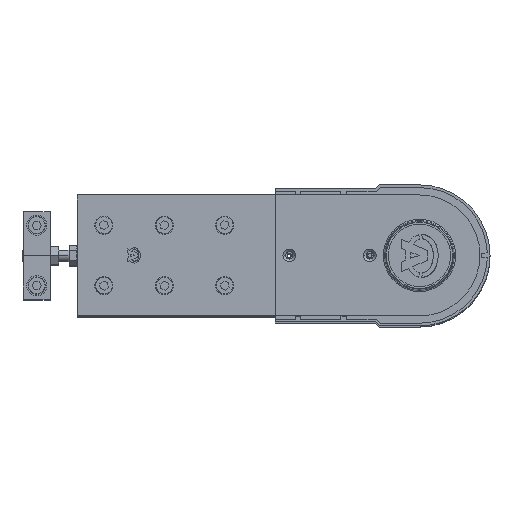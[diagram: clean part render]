
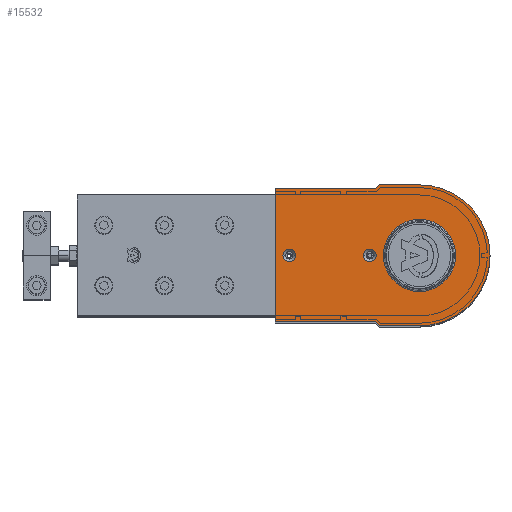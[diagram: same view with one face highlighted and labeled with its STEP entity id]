
A CAD part, top view. The second image highlights one B-rep face of the part: STEP entity #15532.
In plain terms, the highlighted planar face has unit normal (0, 0, 1).
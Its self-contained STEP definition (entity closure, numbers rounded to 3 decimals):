
#48 = EDGE_LOOP ( 'NONE', ( #8662, #6248 ) ) ;
#72 = AXIS2_PLACEMENT_3D ( 'NONE', #12421, #2291, #14115 ) ;
#579 = VERTEX_POINT ( 'NONE', #15591 ) ;
#939 = LINE ( 'NONE', #6861, #4389 ) ;
#1066 = EDGE_LOOP ( 'NONE', ( #3051, #12908 ) ) ;
#1194 = DIRECTION ( 'NONE',  ( 0., 0., 1. ) ) ;
#1334 = FACE_BOUND ( 'NONE', #1066, .T. ) ;
#1435 = VECTOR ( 'NONE', #14005, 1000. ) ;
#1446 = PLANE ( 'NONE',  #20766 ) ;
#1623 = CARTESIAN_POINT ( 'NONE',  ( 37., 0., 0. ) ) ;
#1640 = VERTEX_POINT ( 'NONE', #20698 ) ;
#2146 = CARTESIAN_POINT ( 'NONE',  ( 92.3, 0., 0. ) ) ;
#2174 = CARTESIAN_POINT ( 'NONE',  ( 30., -52.5, 0. ) ) ;
#2273 = CIRCLE ( 'NONE', #21403, 4.7 ) ;
#2291 = DIRECTION ( 'NONE',  ( 0., 0., 1. ) ) ;
#2294 = ORIENTED_EDGE ( 'NONE', *, *, #17404, .T. ) ;
#2687 = LINE ( 'NONE', #9449, #15652 ) ;
#2814 = EDGE_LOOP ( 'NONE', ( #21732, #17873, #2294, #10858, #17736, #21252, #18110, #20338 ) ) ;
#2821 = DIRECTION ( 'NONE',  ( -0.707, 0.707, 0. ) ) ;
#3051 = ORIENTED_EDGE ( 'NONE', *, *, #6811, .F. ) ;
#3138 = VECTOR ( 'NONE', #2821, 1000. ) ;
#3309 = DIRECTION ( 'NONE',  ( 1., 0., 0. ) ) ;
#3400 = CARTESIAN_POINT ( 'NONE',  ( 26.933, 0., 0. ) ) ;
#3638 = DIRECTION ( 'NONE',  ( 0., 0., -1. ) ) ;
#3679 = LINE ( 'NONE', #9573, #3138 ) ;
#4029 = VERTEX_POINT ( 'NONE', #11826 ) ;
#4145 = EDGE_CURVE ( 'NONE', #5101, #18913, #21465, .T. ) ;
#4294 = CARTESIAN_POINT ( 'NONE',  ( 37., 0., 0. ) ) ;
#4346 = CARTESIAN_POINT ( 'NONE',  ( 0., 0., 0. ) ) ;
#4349 = DIRECTION ( 'NONE',  ( -1., 0., 0. ) ) ;
#4366 = CARTESIAN_POINT ( 'NONE',  ( 32.3, 0., 0. ) ) ;
#4389 = VECTOR ( 'NONE', #17017, 1000. ) ;
#4845 = CARTESIAN_POINT ( 'NONE',  ( 0., 0., 0. ) ) ;
#5052 = CIRCLE ( 'NONE', #18909, 26.933 ) ;
#5101 = VERTEX_POINT ( 'NONE', #14439 ) ;
#5654 = VECTOR ( 'NONE', #4349, 1000. ) ;
#5995 = DIRECTION ( 'NONE',  ( 1., 0., 0. ) ) ;
#6047 = DIRECTION ( 'NONE',  ( 1., 0., 0. ) ) ;
#6157 = AXIS2_PLACEMENT_3D ( 'NONE', #6756, #18574, #8437 ) ;
#6248 = ORIENTED_EDGE ( 'NONE', *, *, #4145, .T. ) ;
#6756 = CARTESIAN_POINT ( 'NONE',  ( 0., 0., 0. ) ) ;
#6811 = EDGE_CURVE ( 'NONE', #7009, #13308, #21647, .T. ) ;
#6861 = CARTESIAN_POINT ( 'NONE',  ( 107.5, -49.5, 0. ) ) ;
#7009 = VERTEX_POINT ( 'NONE', #9527 ) ;
#8248 = DIRECTION ( 'NONE',  ( 1., 0., 0. ) ) ;
#8437 = DIRECTION ( 'NONE',  ( 1., 0., 0. ) ) ;
#8595 = CIRCLE ( 'NONE', #6157, 52.5 ) ;
#8662 = ORIENTED_EDGE ( 'NONE', *, *, #15300, .T. ) ;
#9376 = EDGE_CURVE ( 'NONE', #15078, #13789, #15676, .T. ) ;
#9406 = CARTESIAN_POINT ( 'NONE',  ( 107.5, 49.5, 0. ) ) ;
#9449 = CARTESIAN_POINT ( 'NONE',  ( 107.5, -49.5, 0. ) ) ;
#9527 = CARTESIAN_POINT ( 'NONE',  ( 101.7, 0., 0. ) ) ;
#9573 = CARTESIAN_POINT ( 'NONE',  ( 33., 49.5, 0. ) ) ;
#9858 = EDGE_CURVE ( 'NONE', #1640, #4029, #2687, .T. ) ;
#10369 = FACE_BOUND ( 'NONE', #17159, .T. ) ;
#10800 = CIRCLE ( 'NONE', #13219, 4.7 ) ;
#10858 = ORIENTED_EDGE ( 'NONE', *, *, #11179, .T. ) ;
#11115 = VERTEX_POINT ( 'NONE', #13038 ) ;
#11179 = EDGE_CURVE ( 'NONE', #13941, #20697, #11671, .T. ) ;
#11188 = VECTOR ( 'NONE', #16553, 1000. ) ;
#11368 = CARTESIAN_POINT ( 'NONE',  ( 97., 0., 0. ) ) ;
#11563 = DIRECTION ( 'NONE',  ( -1., 0., 0. ) ) ;
#11671 = LINE ( 'NONE', #18271, #17994 ) ;
#11826 = CARTESIAN_POINT ( 'NONE',  ( 107.5, 49.5, 0. ) ) ;
#12317 = ORIENTED_EDGE ( 'NONE', *, *, #17609, .F. ) ;
#12403 = ORIENTED_EDGE ( 'NONE', *, *, #12833, .F. ) ;
#12421 = CARTESIAN_POINT ( 'NONE',  ( 97., 0., 0. ) ) ;
#12739 = VERTEX_POINT ( 'NONE', #19012 ) ;
#12833 = EDGE_CURVE ( 'NONE', #20838, #579, #10800, .T. ) ;
#12908 = ORIENTED_EDGE ( 'NONE', *, *, #20278, .F. ) ;
#13038 = CARTESIAN_POINT ( 'NONE',  ( 0., -52.5, 0. ) ) ;
#13059 = DIRECTION ( 'NONE',  ( 1., 0., 0. ) ) ;
#13152 = CARTESIAN_POINT ( 'NONE',  ( 33., -49.5, 0. ) ) ;
#13219 = AXIS2_PLACEMENT_3D ( 'NONE', #4294, #16142, #5995 ) ;
#13308 = VERTEX_POINT ( 'NONE', #2146 ) ;
#13380 = AXIS2_PLACEMENT_3D ( 'NONE', #13803, #3638, #15499 ) ;
#13450 = DIRECTION ( 'NONE',  ( 0., 0., 1. ) ) ;
#13467 = CIRCLE ( 'NONE', #16139, 4.7 ) ;
#13736 = CARTESIAN_POINT ( 'NONE',  ( 33., -49.5, 0. ) ) ;
#13789 = VERTEX_POINT ( 'NONE', #13736 ) ;
#13803 = CARTESIAN_POINT ( 'NONE',  ( 0., 0., 0. ) ) ;
#13941 = VERTEX_POINT ( 'NONE', #17426 ) ;
#14005 = DIRECTION ( 'NONE',  ( 1., 0., 0. ) ) ;
#14115 = DIRECTION ( 'NONE',  ( 1., 0., 0. ) ) ;
#14433 = LINE ( 'NONE', #2174, #1435 ) ;
#14439 = CARTESIAN_POINT ( 'NONE',  ( -26.933, 0., 0. ) ) ;
#14460 = EDGE_CURVE ( 'NONE', #20697, #11115, #8595, .T. ) ;
#14616 = EDGE_CURVE ( 'NONE', #11115, #15078, #14433, .T. ) ;
#15078 = VERTEX_POINT ( 'NONE', #18992 ) ;
#15300 = EDGE_CURVE ( 'NONE', #18913, #5101, #5052, .T. ) ;
#15499 = DIRECTION ( 'NONE',  ( 1., 0., 0. ) ) ;
#15532 = ADVANCED_FACE ( 'NONE', ( #19350, #10369, #1334, #18813 ), #1446, .T. ) ;
#15591 = CARTESIAN_POINT ( 'NONE',  ( 41.7, 0., 0. ) ) ;
#15652 = VECTOR ( 'NONE', #17866, 1000. ) ;
#15676 = LINE ( 'NONE', #13152, #11188 ) ;
#16139 = AXIS2_PLACEMENT_3D ( 'NONE', #1623, #13450, #3309 ) ;
#16142 = DIRECTION ( 'NONE',  ( 0., 0., 1. ) ) ;
#16205 = DIRECTION ( 'NONE',  ( 0., 0., -1. ) ) ;
#16553 = DIRECTION ( 'NONE',  ( 0.707, 0.707, 0. ) ) ;
#17017 = DIRECTION ( 'NONE',  ( 1., 0., 0. ) ) ;
#17159 = EDGE_LOOP ( 'NONE', ( #12317, #12403 ) ) ;
#17404 = EDGE_CURVE ( 'NONE', #12739, #13941, #3679, .T. ) ;
#17426 = CARTESIAN_POINT ( 'NONE',  ( 30., 52.5, 0. ) ) ;
#17480 = CARTESIAN_POINT ( 'NONE',  ( 0., 52.5, 0. ) ) ;
#17609 = EDGE_CURVE ( 'NONE', #579, #20838, #13467, .T. ) ;
#17736 = ORIENTED_EDGE ( 'NONE', *, *, #14460, .T. ) ;
#17866 = DIRECTION ( 'NONE',  ( 0., 1., 0. ) ) ;
#17873 = ORIENTED_EDGE ( 'NONE', *, *, #21384, .T. ) ;
#17994 = VECTOR ( 'NONE', #11563, 1000. ) ;
#18110 = ORIENTED_EDGE ( 'NONE', *, *, #9376, .T. ) ;
#18271 = CARTESIAN_POINT ( 'NONE',  ( 30., 52.5, 0. ) ) ;
#18382 = DIRECTION ( 'NONE',  ( 0., 0., 1. ) ) ;
#18574 = DIRECTION ( 'NONE',  ( 0., 0., 1. ) ) ;
#18609 = LINE ( 'NONE', #9406, #5654 ) ;
#18813 = FACE_OUTER_BOUND ( 'NONE', #2814, .T. ) ;
#18909 = AXIS2_PLACEMENT_3D ( 'NONE', #4346, #16205, #6047 ) ;
#18913 = VERTEX_POINT ( 'NONE', #3400 ) ;
#18992 = CARTESIAN_POINT ( 'NONE',  ( 30., -52.5, 0. ) ) ;
#19012 = CARTESIAN_POINT ( 'NONE',  ( 33., 49.5, 0. ) ) ;
#19350 = FACE_BOUND ( 'NONE', #48, .T. ) ;
#19628 = EDGE_CURVE ( 'NONE', #13789, #1640, #939, .T. ) ;
#20278 = EDGE_CURVE ( 'NONE', #13308, #7009, #2273, .T. ) ;
#20338 = ORIENTED_EDGE ( 'NONE', *, *, #19628, .T. ) ;
#20697 = VERTEX_POINT ( 'NONE', #17480 ) ;
#20698 = CARTESIAN_POINT ( 'NONE',  ( 107.5, -49.5, 0. ) ) ;
#20766 = AXIS2_PLACEMENT_3D ( 'NONE', #4845, #18382, #8248 ) ;
#20838 = VERTEX_POINT ( 'NONE', #4366 ) ;
#21252 = ORIENTED_EDGE ( 'NONE', *, *, #14616, .T. ) ;
#21384 = EDGE_CURVE ( 'NONE', #4029, #12739, #18609, .T. ) ;
#21403 = AXIS2_PLACEMENT_3D ( 'NONE', #11368, #1194, #13059 ) ;
#21465 = CIRCLE ( 'NONE', #13380, 26.933 ) ;
#21647 = CIRCLE ( 'NONE', #72, 4.7 ) ;
#21732 = ORIENTED_EDGE ( 'NONE', *, *, #9858, .T. ) ;
